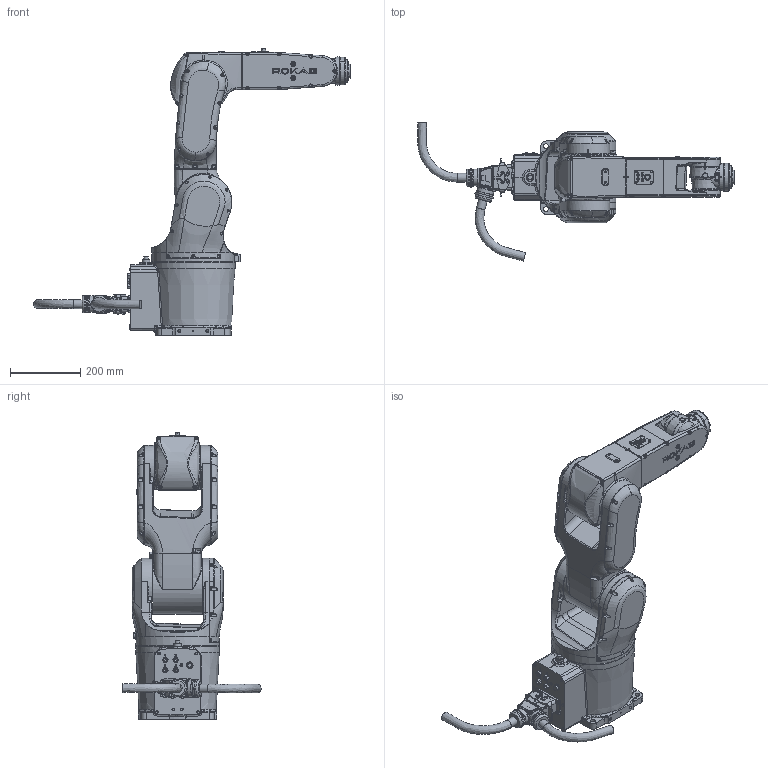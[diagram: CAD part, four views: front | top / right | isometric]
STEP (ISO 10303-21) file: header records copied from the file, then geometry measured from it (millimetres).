
FILE_DESCRIPTION(/* description */ (''),/* implementation_level */ '2;1');
FILE_NAME(/* name */ 'NB10s-1007 简化模型A.stp',/* time_stamp */ '2025-04-30T16:59:07+08:00',/* author */ (''),/* organization */ (''),/* preprocessor_version */ 'ST-DEVELOPER v16',/* originating_system */ 'SIEMENS PLM Software NX 10.0',/* authorisation */ '');
FILE_SCHEMA (('CONFIG_CONTROL_DESIGN'));
Products named in the file (10): NB10-logo; NB10-3Dwork-A; NB10-yao-A; NB10-xiaobihou-A; NB10-shuchu-A; NB10-shouwan-A; NB10-dabi-A; NB10-base-A; NB10-xiaobiqian-A_MODEL; NB10s-1007
Assembly tree (10 placements, depth 3):
  NB10s-1007
    NB10-base-A
    NB10-dabi-A
    NB10-shouwan-A
    NB10-shuchu-A
    NB10-xiaobihou-A
    NB10-xiaobiqian-A_MODEL
      NB10-logo  x2
    NB10-yao-A
    NB10-3Dwork-A
Bounding box: 903.62 x 394.42 x 819.15 mm (x, y, z)
Volume: 30563033.5 mm3; surface area: 1377810.8 mm2
Topology: 23 solids, 36 shells, 3531 faces, 8425 edges, 5102 vertices
Faces by surface type: plane 1173, cylinder 881, bspline 724, cone 280, torus 276, extrusion 163, sphere 34
Full cylindrical faces by diameter (mm): 3.3 x8, 4.2 x15, 4.75 x4, 4.826 x1, 5 x3, 5.1 x4, 5.13 x8, 5.5 x83, 6 x2, 6.725 x4, 7 x21, 8.5 x10, 9.5 x3, 13 x1, 13.5 x4, 14 x1, 15 x4, 18.5 x1, 20 x1, 22 x1, 25 x2, 40 x1, 41.226 x2, 47.5 x2, 49.55 x4, 50 x2, 55 x2, 59 x2, 65 x1, 68 x1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
Entity records: 138176 total; most frequent: CARTESIAN_POINT 65539, ORIENTED_EDGE 15320, DIRECTION 13548, EDGE_CURVE 7660, AXIS2_PLACEMENT_3D 5421, VERTEX_POINT 4828, EDGE_LOOP 4029, ADVANCED_FACE 3460
